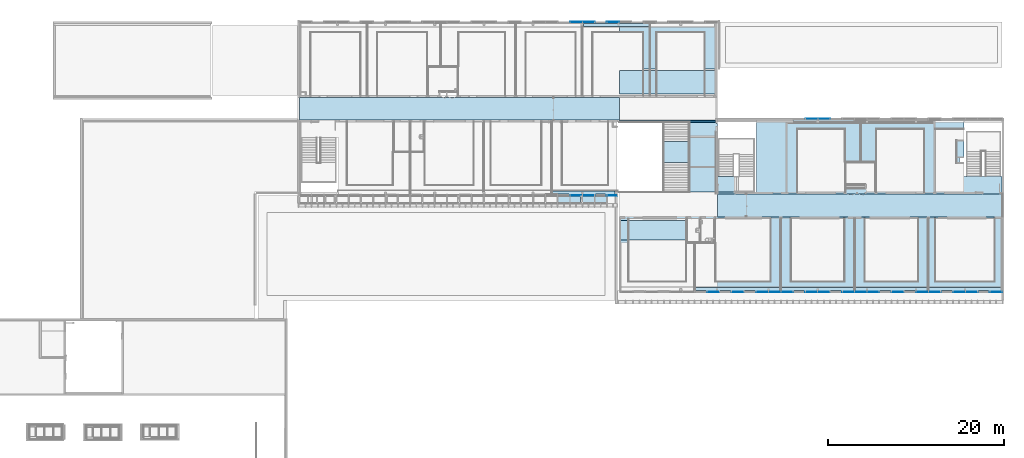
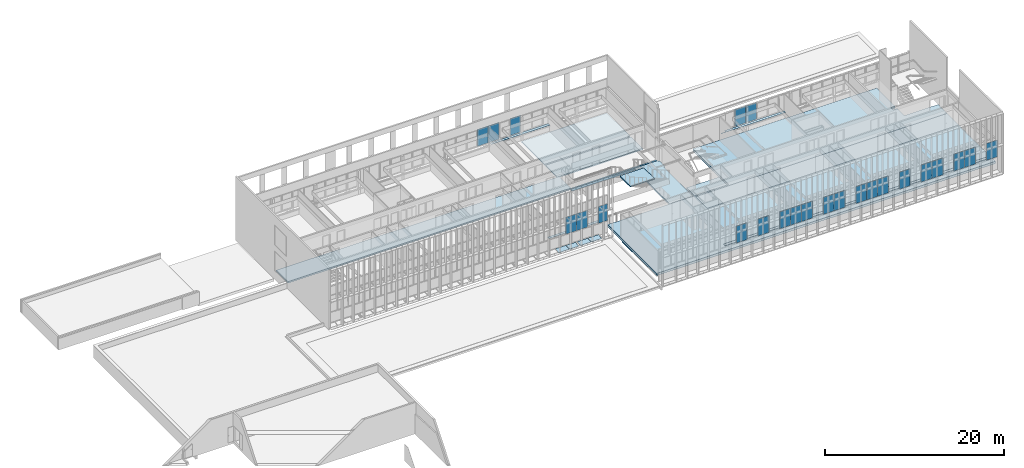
# One storey, part 31 of 106: 28 plates, 14 slabs, 6 elements without a shape of their own.
"""IFC2X3 building model written with IfcOpenShell, lengths in centimetres."""

from ifc_helpers import new_model, entity, si_unit, converted_unit, derived_unit, direction, frame, frame_2d, origin, origin_2d_with_axis, place, context, subcontext, project, spatial, polyline, rectangle, outline, extrude, source, transform, mapped, material, layer, layer_set, layer_usage, type_object, type_shapes, element, aggregate, save


model = new_model("IFC2X3")

# Units and contexts
model_context = context("Model", 3, precision=0.001, world=origin(), true_north=direction((6.12303176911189e-17, 1.0)))
body_context = subcontext(model_context, "Body", "Model", "MODEL_VIEW")
ifc_project = project(units=[si_unit("LENGTHUNIT", "METRE", prefix="CENTI"), si_unit("AREAUNIT", "SQUARE_METRE"), si_unit("VOLUMEUNIT", "CUBIC_METRE"), converted_unit("PLANEANGLEUNIT", "DEGREE", entity("IfcRatioMeasure", 0.0174532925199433), si_unit("PLANEANGLEUNIT", "RADIAN"), dimensions=[0, 0, 0, 0, 0, 0, 0]), si_unit("MASSUNIT", "GRAM", prefix="KILO"), derived_unit("MASSDENSITYUNIT", [(si_unit("MASSUNIT", "GRAM", prefix="KILO"), 1), (si_unit("LENGTHUNIT", "METRE"), -3)]), si_unit("TIMEUNIT", "SECOND"), si_unit("FREQUENCYUNIT", "HERTZ"), si_unit("THERMODYNAMICTEMPERATUREUNIT", "DEGREE_CELSIUS"), derived_unit("THERMALTRANSMITTANCEUNIT", [(si_unit("MASSUNIT", "GRAM", prefix="KILO"), 1), (si_unit("THERMODYNAMICTEMPERATUREUNIT", "KELVIN"), -1), (si_unit("TIMEUNIT", "SECOND"), -3)]), derived_unit("VOLUMETRICFLOWRATEUNIT", [(si_unit("LENGTHUNIT", "METRE"), 3), (si_unit("TIMEUNIT", "SECOND"), -1)]), si_unit("ELECTRICCURRENTUNIT", "AMPERE"), si_unit("ELECTRICVOLTAGEUNIT", "VOLT"), si_unit("POWERUNIT", "WATT"), si_unit("FORCEUNIT", "NEWTON", prefix="KILO"), si_unit("ILLUMINANCEUNIT", "LUX"), si_unit("LUMINOUSFLUXUNIT", "LUMEN"), si_unit("LUMINOUSINTENSITYUNIT", "CANDELA"), derived_unit("USERDEFINED", [(si_unit("MASSUNIT", "GRAM", prefix="KILO"), -1), (si_unit("LENGTHUNIT", "METRE"), -2), (si_unit("TIMEUNIT", "SECOND"), 3), (si_unit("LUMINOUSFLUXUNIT", "LUMEN"), 1)]), derived_unit("LINEARVELOCITYUNIT", [(si_unit("LENGTHUNIT", "METRE"), 1), (si_unit("TIMEUNIT", "SECOND"), -1)]), si_unit("PRESSUREUNIT", "PASCAL"), derived_unit("USERDEFINED", [(si_unit("LENGTHUNIT", "METRE"), -2), (si_unit("MASSUNIT", "GRAM", prefix="KILO"), 1), (si_unit("TIMEUNIT", "SECOND"), -2)])], contexts=[model_context])

# Site, building, storey
site_placement = place(None, frame((-2781.94577612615, 7442.24238424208, 0.0)))
site = spatial("IfcSite", under=ifc_project, at=site_placement, Name="Default", CompositionType="ELEMENT")
building_placement = place(site_placement, origin())
building = spatial("IfcBuilding", under=site, at=building_placement, CompositionType="ELEMENT")
storey_placement = place(building_placement, frame((0.0, 0.0, 422.0)))
storey = spatial("IfcBuildingStorey", under=building, at=storey_placement, Name="Toiture - Cuisine", CompositionType="ELEMENT", Elevation=421.999999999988)

# Slabs
ifc_material_1 = material(Name="Béton, coulé sur place")
ifc_layer_1 = layer(ifc_material_1, 1.0)
ifc_material_2 = material(Name="01 - Maçonnerie")
ifc_layer_2 = layer(ifc_material_2, 30.0)
ifc_layer_set_1 = layer_set([ifc_layer_1, ifc_layer_2], Name="Sol:02 - dalle béton 30cm + finition 1cm")
ifc_layer_usage_1 = layer_usage(ifc_layer_set_1, "AXIS3", "POSITIVE", 0.0)
slab_type_1 = type_object("IfcSlabType", Name="Sol:02 - dalle béton 30cm + finition 1cm", PredefinedType="FLOOR")
slab_1_placement = place(building_placement, frame((-8409.49987766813, -3005.31349958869, 391.0)))
element("IfcSlab", 1, at=slab_1_placement, inside=storey, type_object=slab_type_1, material=ifc_layer_usage_1, Name="Sol:02 - dalle béton 30cm + finition 1cm:3", ObjectType="Sol:02 - dalle béton 30cm + finition 1cm", PredefinedType="FLOOR", context=body_context, shape_type="SweptSolid", body=[
    extrude(outline(polyline([(358.249997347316, -1495.15674979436), (358.249997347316, -399.922283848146), (-441.750000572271, -399.922283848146), (-741.750000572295, -399.922283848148), (-1200.44999741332, -399.922283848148), (-1200.44999741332, 400.156749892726), (-3564.44999741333, 400.156749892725), (-3564.44999741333, 180.07771615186), (-3564.44999741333, -8.84325010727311), (-3514.44999741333, -8.84325010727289), (-3514.44999741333, -59.843250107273), (-3564.44999741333, -59.843250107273), (-3564.44999741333, -219.922283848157), (-3999.74999741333, -219.922283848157), (-3999.74999741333, -419.922283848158), (-761.75000057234, -419.922283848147), (-761.75000057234, -679.999817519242), (-3999.74999741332, -679.999817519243), (-3999.74999741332, -1495.15674979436), (358.249997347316, -1495.15674979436)])), frame((3999.74999741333, 1495.15674979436, 31.0), z_axis=(0.0, 0.0, -1.0), x_axis=(-1.0, 0.0, 0.0)), (0.0, 0.0, 1.0), 31.0),
])
slab_type_2 = type_object("IfcSlabType", Name="Sol:02 - dalle béton 30cm + finition 1cm", PredefinedType="FLOOR", material=ifc_layer_set_1)
slab_2_placement = place(building_placement, frame((-8409.49987766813, -3005.31349958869, 391.0)))
element("IfcSlab", 2, at=slab_2_placement, inside=storey, type_object=slab_type_2, material=ifc_layer_usage_1, Name="Sol:02 - dalle béton 30cm + finition 1cm:4", ObjectType="Sol:02 - dalle béton 30cm + finition 1cm", PredefinedType="FLOOR", context=body_context, shape_type="SweptSolid", body=[
    extrude(rectangle(XDim=21.6865003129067, YDim=1097.9999979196, at=frame_2d((-190.750001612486, 409.0), x_axis=(0.0, -1.0))), frame((3999.74999741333, 1495.15674979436, 31.0), z_axis=(0.0, 0.0, -1.0), x_axis=(-1.0, 0.0, 0.0)), (0.0, 0.0, 1.0), 31.0),
])

# Roof, plates
curtain_wall_type_1 = type_object("IfcCurtainWallType", Name="Vitres inclinées:Toit en verre 1 m x 2 m", PredefinedType="NOTDEFINED")
roof_placement = place(building_placement, origin())
roof = element("IfcRoof", 3, at=roof_placement, inside=storey, type_object=curtain_wall_type_1, Name="Vitres inclinées:Toit en verre 1 m x 2 m", ObjectType="Vitres inclinées:Toit en verre 1 m x 2 m", ShapeType="NOTDEFINED")
ifc_material_3 = material(Name="Verre")
ifc_layer_3 = layer(ifc_material_3, 4.0)
ifc_layer_set_2 = layer_set([ifc_layer_3], Name="Panneau système:Vitré")
ifc_layer_usage_2 = layer_usage(ifc_layer_set_2, "AXIS3", "POSITIVE", 0.0)
plate_type_1 = type_object("IfcPlateType", Name="Vitré", PredefinedType="CURTAIN_PANEL", material=ifc_layer_set_2)
shared_shape_1 = source(origin(), body_context, "Body", "SweptSolid", [
    extrude(rectangle(XDim=4.0, YDim=135.0, at=origin_2d_with_axis()), frame((0.0, 0.0, 0.0), z_axis=(0.0, 0.0, 1.0), x_axis=(0.0, 1.0, 0.0)), (0.0, 0.0, 1.0), 80.1235111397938),
])
type_shapes(plate_type_1, [shared_shape_1])
plate_1_placement = place(roof_placement, frame((-5399.50004166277, -2035.34756574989, 358.254827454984), z_axis=(0.0, 0.998629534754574, 0.0523359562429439), x_axis=(1.0, 0.0, 0.0)))
plate_1 = element("IfcPlate", 4, at=plate_1_placement, type_object=plate_type_1, material=ifc_layer_usage_2, Name="Panneau système:Vitré", ObjectType="Panneau système:Vitré", context=body_context, shape_type="MappedRepresentation", body=[
    mapped(shared_shape_1, transform((0.0, 0.0, 0.0), scale=1.0)),
])
ifc_layer_usage_3 = layer_usage(ifc_layer_set_2, "AXIS3", "POSITIVE", 0.0)
plate_2_placement = place(roof_placement, frame((-5119.49987763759, -2035.34756574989, 358.254827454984), z_axis=(0.0, 0.998629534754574, 0.0523359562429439), x_axis=(1.0, 0.0, 0.0)))
plate_2 = element("IfcPlate", 5, at=plate_2_placement, type_object=plate_type_1, material=ifc_layer_usage_3, Name="Panneau système:Vitré", ObjectType="Panneau système:Vitré", context=body_context, shape_type="MappedRepresentation", body=[
    mapped(shared_shape_1, transform((0.0, 0.0, 0.0), scale=1.0)),
])
ifc_layer_usage_4 = layer_usage(ifc_layer_set_2, "AXIS3", "POSITIVE", 0.0)
plate_type_2 = type_object("IfcPlateType", Name="Vitré", PredefinedType="CURTAIN_PANEL", material=ifc_layer_set_2)
shared_shape_2 = source(origin(), body_context, "Body", "SweptSolid", [
    extrude(rectangle(XDim=4.0, YDim=117.500164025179, at=origin_2d_with_axis()), frame((0.0, 0.0, 0.0), z_axis=(0.0, 0.0, 1.0), x_axis=(0.0, 1.0, 0.0)), (0.0, 0.0, 1.0), 80.1235111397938),
])
type_shapes(plate_type_2, [shared_shape_2])
plate_3_placement = place(roof_placement, frame((-5268.24995965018, -2035.34756574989, 358.254827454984), z_axis=(0.0, 0.998629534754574, 0.0523359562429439), x_axis=(1.0, 0.0, 0.0)))
plate_3 = element("IfcPlate", 6, at=plate_3_placement, type_object=plate_type_2, material=ifc_layer_usage_4, Name="Panneau système:Vitré", ObjectType="Panneau système:Vitré", context=body_context, shape_type="MappedRepresentation", body=[
    mapped(shared_shape_2, transform((0.0, 0.0, 0.0), scale=1.0)),
])
ifc_layer_usage_5 = layer_usage(ifc_layer_set_2, "AXIS3", "POSITIVE", 0.0)
plate_type_3 = type_object("IfcPlateType", Name="Vitré", PredefinedType="CURTAIN_PANEL", material=ifc_layer_set_2)
shared_shape_3 = source(origin(), body_context, "Body", "SweptSolid", [
    extrude(rectangle(XDim=4.0, YDim=132.5, at=origin_2d_with_axis()), frame((0.0, 0.0, 0.0), z_axis=(0.0, 0.0, 1.0), x_axis=(0.0, 1.0, 0.0)), (0.0, 0.0, 1.0), 80.1235111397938),
])
type_shapes(plate_type_3, [shared_shape_3])
plate_4_placement = place(roof_placement, frame((-4980.74987763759, -2035.34756574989, 358.254827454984), z_axis=(0.0, 0.998629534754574, 0.0523359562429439), x_axis=(1.0, 0.0, 0.0)))
plate_4 = element("IfcPlate", 7, at=plate_4_placement, type_object=plate_type_3, material=ifc_layer_usage_5, Name="Panneau système:Vitré", ObjectType="Panneau système:Vitré", context=body_context, shape_type="MappedRepresentation", body=[
    mapped(shared_shape_3, transform((0.0, 0.0, 0.0), scale=1.0)),
])
aggregate(roof, [plate_1, plate_3, plate_2, plate_4])

# Curtain wall, plates
curtain_wall_type_2 = type_object("IfcCurtainWallType", Name="Mur-rideau:07 - mur rideau trame 140 cm", PredefinedType="NOTDEFINED")
curtain_wall_1_placement = place(building_placement, origin())
curtain_wall_1 = element("IfcCurtainWall", 8, at=curtain_wall_1_placement, inside=storey, type_object=curtain_wall_type_2, Name="Mur-rideau:07 - mur rideau trame 140 cm", ObjectType="Mur-rideau:07 - mur rideau trame 140 cm")
ifc_layer_usage_6 = layer_usage(ifc_layer_set_2, "AXIS3", "POSITIVE", 0.0)
plate_type_4 = type_object("IfcPlateType", Name="Vitré", PredefinedType="CURTAIN_PANEL", material=ifc_layer_set_2)
shared_shape_4 = source(origin(), body_context, "Body", "SweptSolid", [
    extrude(rectangle(XDim=4.0, YDim=138.262499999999, at=origin_2d_with_axis()), frame((0.0, 0.0, 0.0), z_axis=(0.0, 0.0, 1.0), x_axis=(0.0, 1.0, 0.0)), (0.0, 0.0, 1.0), 229.2625),
])
type_shapes(plate_type_4, [shared_shape_4])
plate_5_placement = place(curtain_wall_1_placement, frame((-4839.50004159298, 26.0, 509.61875), z_axis=(0.0, 0.0, 1.0), x_axis=(-1.0, 0.0, 0.0)))
plate_5 = element("IfcPlate", 9, at=plate_5_placement, type_object=plate_type_4, material=ifc_layer_usage_6, Name="Panneau système:Vitré", ObjectType="Panneau système:Vitré", context=body_context, shape_type="MappedRepresentation", body=[
    mapped(shared_shape_4, transform((0.0, 0.0, 0.0), scale=1.0)),
])
ifc_layer_usage_7 = layer_usage(ifc_layer_set_2, "AXIS3", "POSITIVE", 0.0)
plate_6_placement = place(curtain_wall_1_placement, frame((-5119.50004159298, 26.0, 509.61875), z_axis=(0.0, 0.0, 1.0), x_axis=(-1.0, 0.0, 0.0)))
plate_6 = element("IfcPlate", 10, at=plate_6_placement, type_object=plate_type_4, material=ifc_layer_usage_7, Name="Panneau système:Vitré", ObjectType="Panneau système:Vitré", context=body_context, shape_type="MappedRepresentation", body=[
    mapped(shared_shape_4, transform((0.0, 0.0, 0.0), scale=1.0)),
])
ifc_layer_usage_8 = layer_usage(ifc_layer_set_2, "AXIS3", "POSITIVE", 0.0)
plate_7_placement = place(curtain_wall_1_placement, frame((-5259.50004159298, 26.0, 509.61875), z_axis=(0.0, 0.0, 1.0), x_axis=(-1.0, 0.0, 0.0)))
plate_7 = element("IfcPlate", 11, at=plate_7_placement, type_object=plate_type_4, material=ifc_layer_usage_8, Name="Panneau système:Vitré", ObjectType="Panneau système:Vitré", context=body_context, shape_type="MappedRepresentation", body=[
    mapped(shared_shape_4, transform((0.0, 0.0, 0.0), scale=1.0)),
])
aggregate(curtain_wall_1, [plate_5, plate_6, plate_7])

curtain_wall_2_placement = place(building_placement, origin())
curtain_wall_2 = element("IfcCurtainWall", 12, at=curtain_wall_2_placement, inside=storey, type_object=curtain_wall_type_2, Name="Mur-rideau:07 - mur rideau trame 140 cm", ObjectType="Mur-rideau:07 - mur rideau trame 140 cm")
ifc_layer_usage_9 = layer_usage(ifc_layer_set_2, "AXIS3", "POSITIVE", 0.0)
plate_8_placement = place(curtain_wall_2_placement, frame((-5259.49987763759, -1946.27903364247, 509.61875)))
plate_8 = element("IfcPlate", 13, at=plate_8_placement, type_object=plate_type_4, material=ifc_layer_usage_9, Name="Panneau système:Vitré", ObjectType="Panneau système:Vitré", context=body_context, shape_type="MappedRepresentation", body=[
    mapped(shared_shape_4, transform((0.0, 0.0, 0.0), scale=1.0)),
])
ifc_layer_usage_10 = layer_usage(ifc_layer_set_2, "AXIS3", "POSITIVE", 0.0)
plate_9_placement = place(curtain_wall_2_placement, frame((-5119.49987763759, -1946.27903364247, 509.61875)))
plate_9 = element("IfcPlate", 14, at=plate_9_placement, type_object=plate_type_4, material=ifc_layer_usage_10, Name="Panneau système:Vitré", ObjectType="Panneau système:Vitré", context=body_context, shape_type="MappedRepresentation", body=[
    mapped(shared_shape_4, transform((0.0, 0.0, 0.0), scale=1.0)),
])

curtain_wall_3_placement = place(building_placement, origin())
curtain_wall_3 = element("IfcCurtainWall", 15, at=curtain_wall_3_placement, inside=storey, type_object=curtain_wall_type_2, Name="Mur-rideau:07 - mur rideau trame 140 cm", ObjectType="Mur-rideau:07 - mur rideau trame 140 cm")
ifc_layer_usage_11 = layer_usage(ifc_layer_set_2, "AXIS3", "POSITIVE", 0.0)
plate_10_placement = place(curtain_wall_3_placement, frame((-3700.29988284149, -3046.51349958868, 509.618750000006)))
plate_10 = element("IfcPlate", 16, at=plate_10_placement, type_object=plate_type_4, material=ifc_layer_usage_11, Name="Panneau système:Vitré", ObjectType="Panneau système:Vitré", context=body_context, shape_type="MappedRepresentation", body=[
    mapped(shared_shape_4, transform((0.0, 0.0, 0.0), scale=1.0)),
])
ifc_layer_usage_12 = layer_usage(ifc_layer_set_2, "AXIS3", "POSITIVE", 0.0)
plate_11_placement = place(curtain_wall_3_placement, frame((-3420.29988284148, -3046.51349958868, 509.618750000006)))
plate_11 = element("IfcPlate", 17, at=plate_11_placement, type_object=plate_type_4, material=ifc_layer_usage_12, Name="Panneau système:Vitré", ObjectType="Panneau système:Vitré", context=body_context, shape_type="MappedRepresentation", body=[
    mapped(shared_shape_4, transform((0.0, 0.0, 0.0), scale=1.0)),
])
ifc_layer_usage_13 = layer_usage(ifc_layer_set_2, "AXIS3", "POSITIVE", 0.0)
plate_12_placement = place(curtain_wall_3_placement, frame((-3140.29988284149, -3046.51349958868, 509.618750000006)))
plate_12 = element("IfcPlate", 18, at=plate_12_placement, type_object=plate_type_4, material=ifc_layer_usage_13, Name="Panneau système:Vitré", ObjectType="Panneau système:Vitré", context=body_context, shape_type="MappedRepresentation", body=[
    mapped(shared_shape_4, transform((0.0, 0.0, 0.0), scale=1.0)),
])
ifc_layer_usage_14 = layer_usage(ifc_layer_set_2, "AXIS3", "POSITIVE", 0.0)
plate_13_placement = place(curtain_wall_3_placement, frame((-3000.29988284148, -3046.51349958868, 509.618750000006)))
plate_13 = element("IfcPlate", 19, at=plate_13_placement, type_object=plate_type_4, material=ifc_layer_usage_14, Name="Panneau système:Vitré", ObjectType="Panneau système:Vitré", context=body_context, shape_type="MappedRepresentation", body=[
    mapped(shared_shape_4, transform((0.0, 0.0, 0.0), scale=1.0)),
])
ifc_layer_usage_15 = layer_usage(ifc_layer_set_2, "AXIS3", "POSITIVE", 0.0)
plate_14_placement = place(curtain_wall_3_placement, frame((-2860.29988284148, -3046.51349958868, 509.618750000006)))
plate_14 = element("IfcPlate", 20, at=plate_14_placement, type_object=plate_type_4, material=ifc_layer_usage_15, Name="Panneau système:Vitré", ObjectType="Panneau système:Vitré", context=body_context, shape_type="MappedRepresentation", body=[
    mapped(shared_shape_4, transform((0.0, 0.0, 0.0), scale=1.0)),
])
ifc_layer_usage_16 = layer_usage(ifc_layer_set_2, "AXIS3", "POSITIVE", 0.0)
plate_15_placement = place(curtain_wall_3_placement, frame((-2580.29988284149, -3046.51349958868, 509.618750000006)))
plate_15 = element("IfcPlate", 21, at=plate_15_placement, type_object=plate_type_4, material=ifc_layer_usage_16, Name="Panneau système:Vitré", ObjectType="Panneau système:Vitré", context=body_context, shape_type="MappedRepresentation", body=[
    mapped(shared_shape_4, transform((0.0, 0.0, 0.0), scale=1.0)),
])
ifc_layer_usage_17 = layer_usage(ifc_layer_set_2, "AXIS3", "POSITIVE", 0.0)
plate_16_placement = place(curtain_wall_3_placement, frame((-2440.29988284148, -3046.51349958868, 509.618750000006)))
plate_16 = element("IfcPlate", 22, at=plate_16_placement, type_object=plate_type_4, material=ifc_layer_usage_17, Name="Panneau système:Vitré", ObjectType="Panneau système:Vitré", context=body_context, shape_type="MappedRepresentation", body=[
    mapped(shared_shape_4, transform((0.0, 0.0, 0.0), scale=1.0)),
])
ifc_layer_usage_18 = layer_usage(ifc_layer_set_2, "AXIS3", "POSITIVE", 0.0)
plate_17_placement = place(curtain_wall_3_placement, frame((-2160.29988284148, -3046.51349958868, 509.618750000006)))
plate_17 = element("IfcPlate", 23, at=plate_17_placement, type_object=plate_type_4, material=ifc_layer_usage_18, Name="Panneau système:Vitré", ObjectType="Panneau système:Vitré", context=body_context, shape_type="MappedRepresentation", body=[
    mapped(shared_shape_4, transform((0.0, 0.0, 0.0), scale=1.0)),
])
ifc_layer_usage_19 = layer_usage(ifc_layer_set_2, "AXIS3", "POSITIVE", 0.0)
plate_18_placement = place(curtain_wall_3_placement, frame((-2020.29988284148, -3046.51349958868, 509.618750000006)))
plate_18 = element("IfcPlate", 24, at=plate_18_placement, type_object=plate_type_4, material=ifc_layer_usage_19, Name="Panneau système:Vitré", ObjectType="Panneau système:Vitré", context=body_context, shape_type="MappedRepresentation", body=[
    mapped(shared_shape_4, transform((0.0, 0.0, 0.0), scale=1.0)),
])
ifc_layer_usage_20 = layer_usage(ifc_layer_set_2, "AXIS3", "POSITIVE", 0.0)
plate_19_placement = place(curtain_wall_3_placement, frame((-1880.29988284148, -3046.51349958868, 509.618750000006)))
plate_19 = element("IfcPlate", 25, at=plate_19_placement, type_object=plate_type_4, material=ifc_layer_usage_20, Name="Panneau système:Vitré", ObjectType="Panneau système:Vitré", context=body_context, shape_type="MappedRepresentation", body=[
    mapped(shared_shape_4, transform((0.0, 0.0, 0.0), scale=1.0)),
])
ifc_layer_usage_21 = layer_usage(ifc_layer_set_2, "AXIS3", "POSITIVE", 0.0)
plate_20_placement = place(curtain_wall_3_placement, frame((-1600.29988284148, -3046.51349958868, 509.618750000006)))
plate_20 = element("IfcPlate", 26, at=plate_20_placement, type_object=plate_type_4, material=ifc_layer_usage_21, Name="Panneau système:Vitré", ObjectType="Panneau système:Vitré", context=body_context, shape_type="MappedRepresentation", body=[
    mapped(shared_shape_4, transform((0.0, 0.0, 0.0), scale=1.0)),
])
ifc_layer_usage_22 = layer_usage(ifc_layer_set_2, "AXIS3", "POSITIVE", 0.0)
plate_21_placement = place(curtain_wall_3_placement, frame((-1320.29988284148, -3046.51349958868, 509.618750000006)))
plate_21 = element("IfcPlate", 27, at=plate_21_placement, type_object=plate_type_4, material=ifc_layer_usage_22, Name="Panneau système:Vitré", ObjectType="Panneau système:Vitré", context=body_context, shape_type="MappedRepresentation", body=[
    mapped(shared_shape_4, transform((0.0, 0.0, 0.0), scale=1.0)),
])
ifc_layer_usage_23 = layer_usage(ifc_layer_set_2, "AXIS3", "POSITIVE", 0.0)
plate_22_placement = place(curtain_wall_3_placement, frame((-1180.29988284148, -3046.51349958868, 509.618750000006)))
plate_22 = element("IfcPlate", 28, at=plate_22_placement, type_object=plate_type_4, material=ifc_layer_usage_23, Name="Panneau système:Vitré", ObjectType="Panneau système:Vitré", context=body_context, shape_type="MappedRepresentation", body=[
    mapped(shared_shape_4, transform((0.0, 0.0, 0.0), scale=1.0)),
])
ifc_layer_usage_24 = layer_usage(ifc_layer_set_2, "AXIS3", "POSITIVE", 0.0)
plate_23_placement = place(curtain_wall_3_placement, frame((-900.299882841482, -3046.51349958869, 509.618750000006)))
plate_23 = element("IfcPlate", 29, at=plate_23_placement, type_object=plate_type_4, material=ifc_layer_usage_24, Name="Panneau système:Vitré", ObjectType="Panneau système:Vitré", context=body_context, shape_type="MappedRepresentation", body=[
    mapped(shared_shape_4, transform((0.0, 0.0, 0.0), scale=1.0)),
])
ifc_layer_usage_25 = layer_usage(ifc_layer_set_2, "AXIS3", "POSITIVE", 0.0)
plate_24_placement = place(curtain_wall_3_placement, frame((-760.299882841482, -3046.51349958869, 509.618750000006)))
plate_24 = element("IfcPlate", 30, at=plate_24_placement, type_object=plate_type_4, material=ifc_layer_usage_25, Name="Panneau système:Vitré", ObjectType="Panneau système:Vitré", context=body_context, shape_type="MappedRepresentation", body=[
    mapped(shared_shape_4, transform((0.0, 0.0, 0.0), scale=1.0)),
])

# Plate
ifc_layer_usage_26 = layer_usage(ifc_layer_set_2, "AXIS3", "POSITIVE", 0.0)
plate_type_5 = type_object("IfcPlateType", Name="Vitré", PredefinedType="CURTAIN_PANEL", material=ifc_layer_set_2)
shared_shape_5 = source(origin(), body_context, "Body", "SweptSolid", [
    extrude(rectangle(XDim=4.0, YDim=116.512500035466, at=origin_2d_with_axis()), frame((0.0, 0.0, 0.0), z_axis=(0.0, 0.0, 1.0), x_axis=(0.0, 1.0, 0.0)), (0.0, 0.0, 1.0), 229.2625),
])
type_shapes(plate_type_5, [shared_shape_5])
plate_25_placement = place(curtain_wall_2_placement, frame((-4850.37487761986, -1946.27903364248, 509.61875)))
plate_25 = element("IfcPlate", 31, at=plate_25_placement, type_object=plate_type_5, material=ifc_layer_usage_26, Name="Panneau système:Vitré", ObjectType="Panneau système:Vitré", context=body_context, shape_type="MappedRepresentation", body=[
    mapped(shared_shape_5, transform((0.0, 0.0, 0.0), scale=1.0)),
])

aggregate(curtain_wall_2, [plate_8, plate_9, plate_25])

ifc_layer_usage_27 = layer_usage(ifc_layer_set_2, "AXIS3", "POSITIVE", 0.0)
plate_type_6 = type_object("IfcPlateType", Name="Vitré", PredefinedType="CURTAIN_PANEL", material=ifc_layer_set_2)
shared_shape_6 = source(origin(), body_context, "Body", "SweptSolid", [
    extrude(rectangle(XDim=4.0, YDim=139.131250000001, at=origin_2d_with_axis()), frame((0.0, 0.0, 0.0), z_axis=(0.0, 0.0, 1.0), x_axis=(0.0, 1.0, 0.0)), (0.0, 0.0, 1.0), 229.2625),
])
type_shapes(plate_type_6, [shared_shape_6])
plate_26_placement = place(curtain_wall_3_placement, frame((-479.865507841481, -3046.51349958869, 509.618750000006)))
plate_26 = element("IfcPlate", 32, at=plate_26_placement, type_object=plate_type_6, material=ifc_layer_usage_27, Name="Panneau système:Vitré", ObjectType="Panneau système:Vitré", context=body_context, shape_type="MappedRepresentation", body=[
    mapped(shared_shape_6, transform((0.0, 0.0, 0.0), scale=1.0)),
])

aggregate(curtain_wall_3, [plate_10, plate_11, plate_12, plate_13, plate_14, plate_15, plate_16, plate_17, plate_18, plate_19, plate_20, plate_21, plate_22, plate_23, plate_24, plate_26])

# Curtain wall, plates
curtain_wall_4_placement = place(building_placement, origin())
curtain_wall_4 = element("IfcCurtainWall", 33, at=curtain_wall_4_placement, inside=storey, type_object=curtain_wall_type_2, Name="Mur-rideau:07 - mur rideau trame 140 cm", ObjectType="Mur-rideau:07 - mur rideau trame 140 cm")
ifc_layer_usage_28 = layer_usage(ifc_layer_set_2, "AXIS3", "POSITIVE", 0.0)
plate_type_7 = type_object("IfcPlateType", Name="Vitré", PredefinedType="CURTAIN_PANEL", material=ifc_layer_set_2)
shared_shape_7 = source(origin(), body_context, "Body", "SweptSolid", [
    extrude(rectangle(XDim=4.0, YDim=138.2625, at=origin_2d_with_axis()), frame((0.0, 0.0, 0.0), z_axis=(0.0, 0.0, 1.0), x_axis=(0.0, 1.0, 0.0)), (0.0, 0.0, 1.0), 229.2625),
])
type_shapes(plate_type_7, [shared_shape_7])
plate_27_placement = place(curtain_wall_4_placement, frame((-2579.29988284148, -1073.7999999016, 509.61875)))
plate_27 = element("IfcPlate", 34, at=plate_27_placement, type_object=plate_type_7, material=ifc_layer_usage_28, Name="Panneau système:Vitré", ObjectType="Panneau système:Vitré", context=body_context, shape_type="MappedRepresentation", body=[
    mapped(shared_shape_7, transform((0.0, 0.0, 0.0), scale=1.0)),
])
ifc_layer_usage_29 = layer_usage(ifc_layer_set_2, "AXIS3", "POSITIVE", 0.0)
plate_28_placement = place(curtain_wall_4_placement, frame((-2439.29988284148, -1073.7999999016, 509.61875)))
plate_28 = element("IfcPlate", 35, at=plate_28_placement, type_object=plate_type_7, material=ifc_layer_usage_29, Name="Panneau système:Vitré", ObjectType="Panneau système:Vitré", context=body_context, shape_type="MappedRepresentation", body=[
    mapped(shared_shape_7, transform((0.0, 0.0, 0.0), scale=1.0)),
])
aggregate(curtain_wall_4, [plate_27, plate_28])

# Slabs
ifc_material_4 = material(Name="Bois tablettes")
ifc_layer_4 = layer(ifc_material_4, 2.0)
ifc_layer_set_3 = layer_set([ifc_layer_4], Name="Sol:02 - Tablette bois 2cm")
ifc_layer_usage_30 = layer_usage(ifc_layer_set_3, "AXIS3", "POSITIVE", 0.0)
slab_type_3 = type_object("IfcSlabType", Name="Sol:02 - Tablette bois 2cm", PredefinedType="FLOOR")
slab_3_placement = place(building_placement, frame((-7966.49987760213, -3030.3134995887, 510.0)))
element("IfcSlab", 36, at=slab_3_placement, inside=storey, type_object=slab_type_3, material=ifc_layer_usage_30, Name="Sol:02 - Tablette bois 2cm", ObjectType="Sol:02 - Tablette bois 2cm", PredefinedType="FLOOR", context=body_context, shape_type="SweptSolid", body=[
    extrude(rectangle(XDim=969.999999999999, YDim=34.9308509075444, at=frame_2d((-767.949997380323, -550.082658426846), x_axis=(-1.0, 0.0))), frame((3778.24999738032, 567.617232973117, 2.0), z_axis=(0.0, 0.0, -1.0), x_axis=(-1.0, 0.0, 0.0)), (0.0, 0.0, 1.0), 1.99999999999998),
])
slab_type_4 = type_object("IfcSlabType", Name="Sol:02 - Tablette bois 2cm", PredefinedType="FLOOR")
slab_4_placement = place(building_placement, frame((-7966.49987760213, -3030.3134995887, 510.0)))
element("IfcSlab", 37, at=slab_4_placement, inside=storey, type_object=slab_type_4, material=ifc_layer_usage_30, Name="Sol:02 - Tablette bois 2cm:3", ObjectType="Sol:02 - Tablette bois 2cm", PredefinedType="FLOOR", context=body_context, shape_type="SweptSolid", body=[
    extrude(rectangle(XDim=35.0000000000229, YDim=830.0, at=frame_2d((-1677.94999738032, -550.117232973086), x_axis=(0.0, -1.0))), frame((3778.24999738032, 567.617232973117, 2.0), z_axis=(0.0, 0.0, -1.0), x_axis=(-1.0, 0.0, 0.0)), (0.0, 0.0, 1.0), 1.99999999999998),
])
slab_type_5 = type_object("IfcSlabType", Name="Sol:02 - Tablette bois 2cm", PredefinedType="FLOOR")
slab_5_placement = place(building_placement, frame((-7966.49987760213, -3030.3134995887, 510.0)))
element("IfcSlab", 38, at=slab_5_placement, inside=storey, type_object=slab_type_5, material=ifc_layer_usage_30, Name="Sol:02 - Tablette bois 2cm:4", ObjectType="Sol:02 - Tablette bois 2cm", PredefinedType="FLOOR", context=body_context, shape_type="SweptSolid", body=[
    extrude(rectangle(XDim=35.0000000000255, YDim=830.0, at=frame_2d((-2517.94999738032, -550.11723297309), x_axis=(0.0, -1.0))), frame((3778.24999738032, 567.617232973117, 2.0), z_axis=(0.0, 0.0, -1.0), x_axis=(-1.0, 0.0, 0.0)), (0.0, 0.0, 1.0), 1.99999999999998),
])
slab_type_6 = type_object("IfcSlabType", Name="Sol:02 - Tablette bois 2cm", PredefinedType="FLOOR")
slab_6_placement = place(building_placement, frame((-7966.49987760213, -3030.3134995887, 510.0)))
element("IfcSlab", 39, at=slab_6_placement, inside=storey, type_object=slab_type_6, material=ifc_layer_usage_30, Name="Sol:02 - Tablette bois 2cm:5", ObjectType="Sol:02 - Tablette bois 2cm", PredefinedType="FLOOR", context=body_context, shape_type="SweptSolid", body=[
    extrude(rectangle(XDim=35.0000000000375, YDim=835.3, at=frame_2d((-3360.59999738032, -550.117232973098), x_axis=(0.0, -1.0))), frame((3778.24999738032, 567.617232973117, 2.0), z_axis=(0.0, 0.0, -1.0), x_axis=(-1.0, 0.0, 0.0)), (0.0, 0.0, 1.0), 1.99999999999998),
])
slab_type_7 = type_object("IfcSlabType", Name="Sol:02 - Tablette bois 2cm", PredefinedType="FLOOR")
slab_7_placement = place(building_placement, frame((-7966.49987760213, -3030.3134995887, 510.0)))
element("IfcSlab", 40, at=slab_7_placement, inside=storey, type_object=slab_type_7, material=ifc_layer_usage_30, Name="Sol:02 - Tablette bois 2cm:6", ObjectType="Sol:02 - Tablette bois 2cm", PredefinedType="FLOOR", context=body_context, shape_type="SweptSolid", body=[
    extrude(rectangle(XDim=35.0000000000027, YDim=715.500000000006, at=frame_2d((986.499997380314, 550.11723297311), x_axis=(0.0, 1.0))), frame((3778.24999738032, 567.617232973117, 2.0), z_axis=(0.0, 0.0, -1.0), x_axis=(-1.0, 0.0, 0.0)), (0.0, 0.0, 1.0), 1.99999999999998),
])
ifc_layer_usage_31 = layer_usage(ifc_layer_set_3, "AXIS3", "POSITIVE", 0.0)
slab_type_8 = type_object("IfcSlabType", Name="Sol:02 - Tablette bois 2cm", PredefinedType="FLOOR")
slab_8_placement = place(building_placement, frame((-8394.19987766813, -1125.0, 510.0)))
element("IfcSlab", 41, at=slab_8_placement, inside=storey, type_object=slab_type_8, material=ifc_layer_usage_31, Name="Sol:02 - Tablette bois 2cm:2", ObjectType="Sol:02 - Tablette bois 2cm", PredefinedType="FLOOR", context=body_context, shape_type="SweptSolid", body=[
    extrude(rectangle(XDim=35.0000000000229, YDim=753.200161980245, at=frame_2d((180.650080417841, 550.0), x_axis=(0.0, 1.0))), frame((3774.44999741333, 567.499999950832, 2.0), z_axis=(0.0, 0.0, -1.0), x_axis=(-1.0, 0.0, 0.0)), (0.0, 0.0, 1.0), 1.99999999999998),
])
slab_type_9 = type_object("IfcSlabType", Name="Sol:02 - Tablette bois 2cm", PredefinedType="FLOOR")
slab_9_placement = place(building_placement, frame((-8394.19987766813, -1125.0, 510.0)))
element("IfcSlab", 42, at=slab_9_placement, inside=storey, type_object=slab_type_9, material=ifc_layer_usage_31, Name="Sol:02 - Tablette bois 2cm:7", ObjectType="Sol:02 - Tablette bois 2cm", PredefinedType="FLOOR", context=body_context, shape_type="SweptSolid", body=[
    extrude(outline(polyline([(-2594.44999741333, -567.499999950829), (-1764.44999741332, -567.499999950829), (-1764.44999741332, -557.499999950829), (-1830.44999741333, -557.499999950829), (-1830.44999741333, -532.499999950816), (-2594.44999741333, -532.499999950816), (-2594.44999741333, -567.499999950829)])), frame((3774.44999741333, 567.499999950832, 2.0), z_axis=(0.0, 0.0, -1.0), x_axis=(-1.0, 0.0, 0.0)), (0.0, 0.0, 1.0), 1.99999999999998),
])
ifc_material_5 = material(Name="00 - Isolant")
ifc_layer_5 = layer(ifc_material_5, 16.0)
ifc_layer_set_4 = layer_set([ifc_layer_5], Name="Sol:02 - Isolation en sous-face 16cm")
ifc_layer_usage_32 = layer_usage(ifc_layer_set_4, "AXIS3", "POSITIVE", 0.0)
slab_type_10 = type_object("IfcSlabType", Name="Sol:02 - Isolation en sous-face 16cm", PredefinedType="FLOOR", material=ifc_layer_set_4)
slab_10_placement = place(building_placement, frame((0.0, 0.0, 422.0)))
element("IfcSlab", 43, at=slab_10_placement, inside=storey, type_object=slab_type_10, material=ifc_layer_usage_32, Name="Sol:02 - Isolation en sous-face 16cm", ObjectType="Sol:02 - Isolation en sous-face 16cm", PredefinedType="FLOOR", context=body_context, shape_type="SweptSolid", body=[
    extrude(rectangle(XDim=517.548500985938, YDim=1099.99999791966, at=frame_2d((0.0, -2.27373675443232e-13), x_axis=(1.0, 0.0))), frame((-4217.99987864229, -248.77425049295, -31.0), z_axis=(0.0, 0.0, -1.0), x_axis=(0.0, 1.0, 0.0)), (0.0, 0.0, 1.0), 16.0),
])
ifc_layer_usage_33 = layer_usage(ifc_layer_set_4, "AXIS3", "POSITIVE", 0.0)
slab_type_11 = type_object("IfcSlabType", Name="Sol:02 - Isolation en sous-face 16cm", PredefinedType="FLOOR", material=ifc_layer_set_4)
slab_11_placement = place(building_placement, frame((0.0, 0.0, 422.0)))
element("IfcSlab", 44, at=slab_11_placement, inside=storey, type_object=slab_type_11, material=ifc_layer_usage_33, Name="Sol:02 - Isolation en sous-face 16cm", ObjectType="Sol:02 - Isolation en sous-face 16cm", PredefinedType="FLOOR", context=body_context, shape_type="SweptSolid", body=[
    extrude(rectangle(XDim=262.500000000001, YDim=1099.99999791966, at=frame_2d((0.0, -2.27373675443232e-13), x_axis=(1.0, 0.0))), frame((-4217.99987864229, -658.79850098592, -31.0), z_axis=(0.0, 0.0, -1.0), x_axis=(0.0, 1.0, 0.0)), (0.0, 0.0, 1.0), 16.0),
])
ifc_layer_usage_34 = layer_usage(ifc_layer_set_4, "AXIS3", "POSITIVE", 0.0)
slab_type_12 = type_object("IfcSlabType", Name="Sol:02 - Isolation en sous-face 16cm", PredefinedType="FLOOR", material=ifc_layer_set_4)
slab_12_placement = place(building_placement, frame((0.0, 0.0, 422.0)))
element("IfcSlab", 45, at=slab_12_placement, inside=storey, type_object=slab_type_12, material=ifc_layer_usage_34, Name="Sol:02 - Isolation en sous-face 16cm", ObjectType="Sol:02 - Isolation en sous-face 16cm", PredefinedType="FLOOR", context=body_context, shape_type="SweptSolid", body=[
    extrude(rectangle(XDim=226.00000000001, YDim=1099.99999791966, at=frame_2d((-2.1316282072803e-13, -2.27373675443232e-13), x_axis=(1.0, 0.0))), frame((-4217.9998786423, -2343.15656731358, -31.0), z_axis=(0.0, 0.0, -1.0), x_axis=(0.0, 1.0, 0.0)), (0.0, 0.0, 1.0), 16.0),
])
ifc_layer_6 = layer(ifc_material_1, 1.0)
ifc_layer_7 = layer(ifc_material_2, 20.0)
ifc_layer_set_5 = layer_set([ifc_layer_6, ifc_layer_7], Name="Sol:02 - dalle béton 20cm + finition 1cm")
ifc_layer_usage_35 = layer_usage(ifc_layer_set_5, "AXIS3", "POSITIVE", 0.0)
slab_type_13 = type_object("IfcSlabType", Name="Sol:02 - dalle béton 20cm + finition 1cm", PredefinedType="FLOOR", material=ifc_layer_set_5)
slab_13_placement = place(building_placement, frame((0.0, 0.0, 422.0)))
element("IfcSlab", 46, at=slab_13_placement, inside=storey, type_object=slab_type_13, material=ifc_layer_usage_35, Name="Sol:02 - dalle béton 20cm + finition 1cm", ObjectType="Sol:02 - dalle béton 20cm + finition 1cm", PredefinedType="FLOOR", context=body_context, shape_type="SweptSolid", body=[
    extrude(rectangle(XDim=3641.50000006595, YDim=259.951498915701, at=frame_2d((-602.916666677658, 42.4919164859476), x_axis=(1.0, 0.0))), frame((-5985.83321095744, -1002.51616692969, -21.0)), (0.0, 0.0, 1.0), 21.0),
    extrude(rectangle(XDim=3237.99999684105, YDim=260.077533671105, at=frame_2d((2.27373675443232e-13, -2.1316282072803e-13), x_axis=(1.0, 0.0))), frame((-2028.99988126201, -2060.11780047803, -21.0), z_axis=(0.0, 0.0, 1.0), x_axis=(-1.0, 0.0, 0.0)), (0.0, 0.0, 1.0), 21.0),
    extrude(outline(polyline([(-70.5000003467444, -646.300439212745), (229.499999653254, -646.300439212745), (229.499999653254, 10.4063312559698), (249.499999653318, 10.4063312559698), (249.499999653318, 136.871824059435), (229.499999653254, 136.871824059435), (229.499999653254, 173.778594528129), (-865.49999826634, 173.778594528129), (-865.49999826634, 173.465094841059), (227.499999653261, 173.465094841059), (227.499999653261, 151.778594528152), (-70.5000003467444, 151.778594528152), (-70.5000003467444, -646.300439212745)])), frame((-3897.49987933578, -1263.77859442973, -21.0)), (0.0, 0.0, 1.0), 21.0),
    extrude(rectangle(XDim=418.699996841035, YDim=179.99999999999, at=frame_2d((-5.86999968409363, 17.999999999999), x_axis=(1.0, 0.0))), frame((-3444.51988094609, -1802.07903364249, -21.0), z_axis=(0.0, 0.0, 1.0), x_axis=(-1.0, 0.0, 0.0)), (0.0, 0.0, 1.0), 21.0),
])

# Stair, slab
stair_placement = place(building_placement, frame((0.0, 0.0, 422.0)))
stair = element("IfcStair", 47, at=stair_placement, inside=storey, Name="Escalier coulé sur place:Escalier", ObjectType="Escalier coulé sur place:Monobloc", ShapeType="NOTDEFINED")
ifc_material_6 = material(Name="Maçonnerie - Béton")
slab_14_placement = place(stair_placement, origin())
slab_14 = element("IfcSlab", 48, at=slab_14_placement, material=ifc_material_6, Name="Escalier coulé sur place:Escalier:223221 Landing 1", ObjectType="Palier monobloc:Epaisseur 150 mm", PredefinedType="LANDING", context=body_context, shape_type="SweptSolid", body=[
    extrude(outline(polyline([(-104.534910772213, -10.0475575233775), (-95.4103952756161, -10.0475575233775), (116.668638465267, -10.0475575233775), (135.54412296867, -10.0475575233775), (135.54412296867, -0.833548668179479), (116.668638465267, 9.95244247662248), (-95.4103952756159, 9.95244247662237), (-104.534910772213, 15.1664513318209), (-104.534910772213, 5.95244247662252), (-104.534910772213, -10.0475575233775)])), frame((-4274.99987968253, -1438.5349106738, 133.952442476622), z_axis=(1.0, 0.0, 0.0), x_axis=(0.0, -1.0, 0.0)), (0.0, 0.0, 1.0), 304.999999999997),
])
aggregate(stair, [slab_14])

save(model, "model.ifc")
